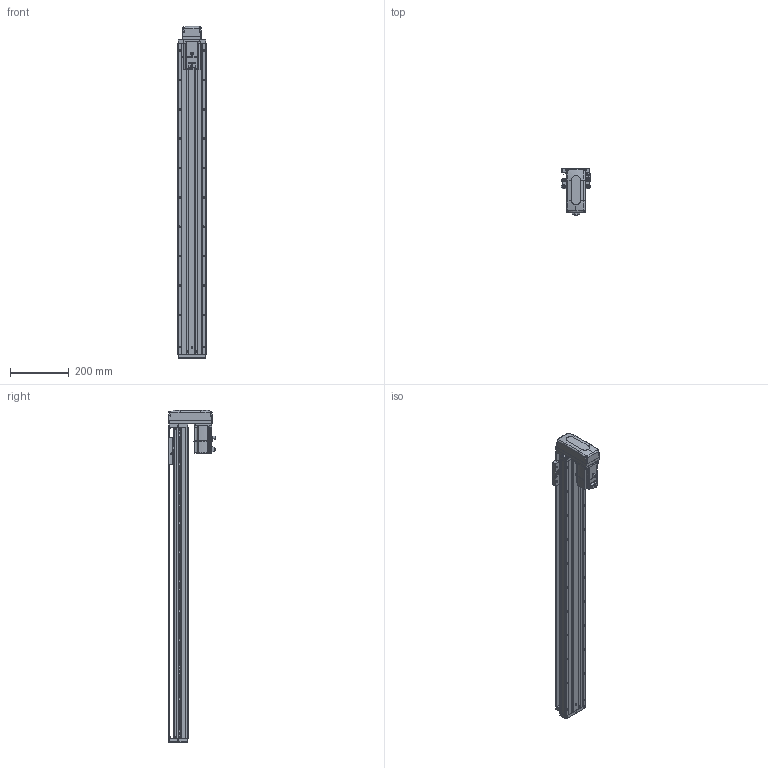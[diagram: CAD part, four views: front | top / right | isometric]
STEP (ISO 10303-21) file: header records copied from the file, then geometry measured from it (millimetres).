
FILE_DESCRIPTION (( 'STEP AP203' ), '1' );
FILE_NAME ('KTHA100-900-BM-M20-C4L.step', '2022-04-26T01:54:49', ( '微软用户' ), ( '微软中国' ), 'SwSTEP 2.0', 'SolidWorks 2020', '' );
FILE_SCHEMA (( 'CONFIG_CONTROL_DESIGN' ));
Length unit declared in the file: millimetre
Products named in the file (17): CTHA86-015-1_CTHA86-015-2; KTHA100-002; GBT77-2000 M3×3; CTHA86-033; KTHA100-004; GBT 70.1-M3℅6; KTHA100-900-BM-M20-C4L; KTHA100-005; GBT70.1 M5℅16; GB¨uT 70.2-M3¡Á5_M3¡Á6; CTHA60-016; EE_SX911P_R; GBT 70.3-M3℅6; CTHA60-017; _X2_4E0983F1_X0_200W_1; KTHA100-001_1060; CTHA60-021
Assembly tree (57 placements, depth 2):
  KTHA100-900-BM-M20-C4L
    KTHA100-001_1060
    KTHA100-002
    KTHA100-004
    KTHA100-005
    GB¨uT 70.2-M3¡Á5_M3¡Á6  x6
    EE_SX911P_R  x3
    CTHA60-017  x3
    CTHA60-021  x2
    GBT77-2000 M3×3  x6
    GBT 70.1-M3℅6  x10
    GBT70.1 M5℅16  x14
    CTHA60-016  x2
    GBT 70.3-M3℅6  x4
    _X2_4E0983F1_X0_200W_1
    CTHA86-015-1_CTHA86-015-2
    CTHA86-033
Bounding box: 98.82 x 163.2 x 1131 mm (x, y, z)
Volume: 4762361.3 mm3; surface area: 771234.3 mm2
Topology: 60 solids, 60 shells, 2497 faces, 6001 edges, 3724 vertices
Faces by surface type: plane 1280, cylinder 695, cone 315, torus 116, bspline 75, sphere 16
Entity records: 43886 total; most frequent: CARTESIAN_POINT 8784, DIRECTION 6822, ORIENTED_EDGE 6614, EDGE_CURVE 3307, AXIS2_PLACEMENT_3D 2370, VERTEX_POINT 2084, LINE 2082, VECTOR 2082
